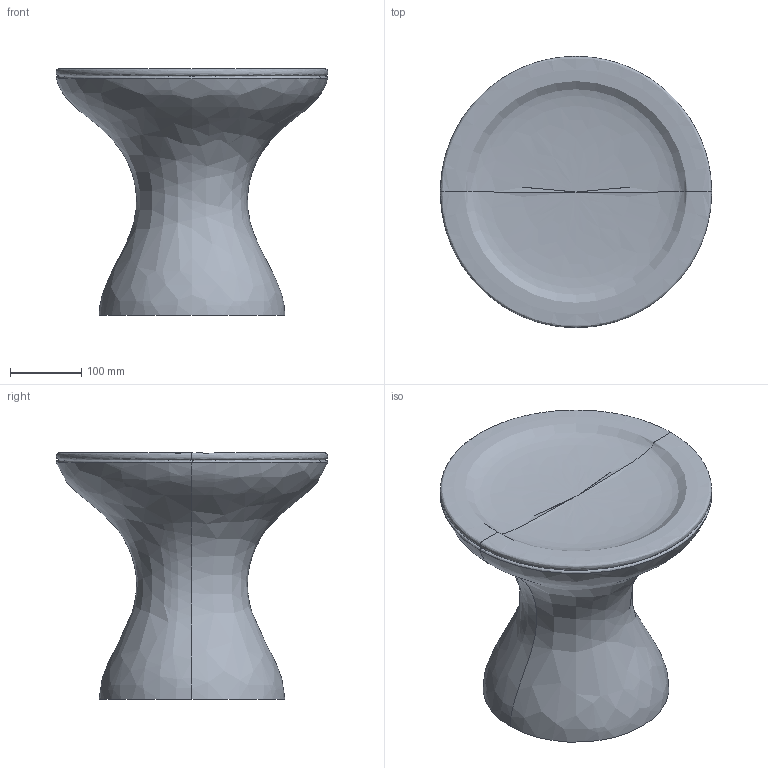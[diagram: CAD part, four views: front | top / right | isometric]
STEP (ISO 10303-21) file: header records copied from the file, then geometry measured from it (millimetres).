
FILE_DESCRIPTION(/* description */ (''),/* implementation_level */ '2;1');
FILE_NAME(/* name */ '34',/* time_stamp */ '2026-07-06T11:32:51+02:00',/* author */ (''),/* organization */ (''),/* preprocessor_version */ 'ST-DEVELOPER v19.2',/* originating_system */ 'Rhino 8.32',/* authorisation */ '');
FILE_SCHEMA (('CONFIG_CONTROL_DESIGN'));
Length unit declared in the file: millimetre
Products named in the file (1): Document
Bounding box: 379.75 x 379.66 x 345.39 mm (x, y, z)
Volume: 6729055.5 mm3; surface area: 851891.8 mm2
Topology: 2 solids, 2 shells, 17 faces, 34 edges, 18 vertices
Faces by surface type: bspline 14, plane 3
Entity records: 3225 total; most frequent: CARTESIAN_POINT 2884, ORIENTED_EDGE 60, DIRECTION 37, EDGE_CURVE 30, AXIS2_PLACEMENT_3D 20, EDGE_LOOP 18, VERTEX_POINT 18, ADVANCED_FACE 17
